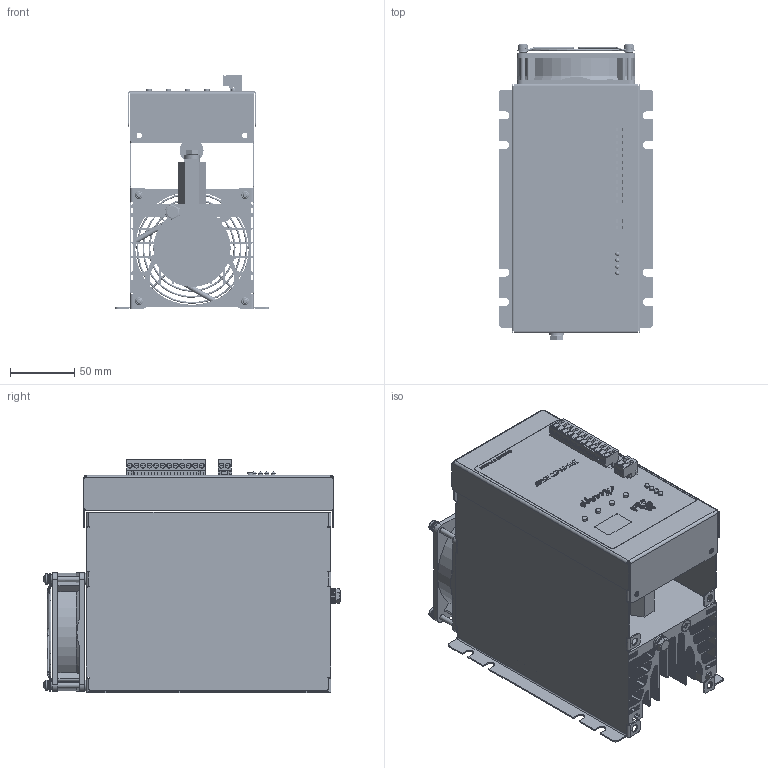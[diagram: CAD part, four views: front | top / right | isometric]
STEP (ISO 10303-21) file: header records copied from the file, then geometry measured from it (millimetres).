
FILE_DESCRIPTION(('STEP AP203'), '1');
FILE_NAME('ÒÐÌ-1Ì-100 RS485', '2025-03-24T13:08:50', (''), ('ÎÎÎ "Ìåàíäð"'), 'C3D Converter', 'C3D Toolkit', '');
FILE_SCHEMA(('CONFIG_CONTROL_DESIGN'));
Length unit declared in the file: millimetre
Products named in the file (2): Болт М6х14
Assembly tree (4 placements, depth 2):
  (unnamed)
    Болт М6х14  x4
Bounding box: 120 x 230.24 x 181.05 mm (x, y, z)
Volume: 653664.5 mm3; surface area: 534504.3 mm2
Topology: 6 solids, 22 shells, 7471 faces, 21803 edges, 14487 vertices
Faces by surface type: plane 4183, cylinder 2220, extrusion 908, bspline 72, torus 42, cone 38, sphere 8
Full cylindrical faces by diameter (mm): 1.414 x4, 3 x3, 3.1 x14, 3.3 x8, 3.9 x14, 4 x16, 4.2 x4, 4.3 x12, 6 x12, 6.1 x12, 6.4 x4, 8 x4, 8.9 x4, 9 x8, 9.1 x1, 10.01 x1, 12 x4, 14 x1, 18.5 x2, 43.5 x1, 88 x1
Entity records: 336514 total; most frequent: CARTESIAN_POINT 83933, ORIENTED_EDGE 42448, DIRECTION 37242, EDGE_CURVE 21224, VECTOR 15224, LINE 14316, VERTEX_POINT 14218, AXIS2_PLACEMENT_3D 11009
